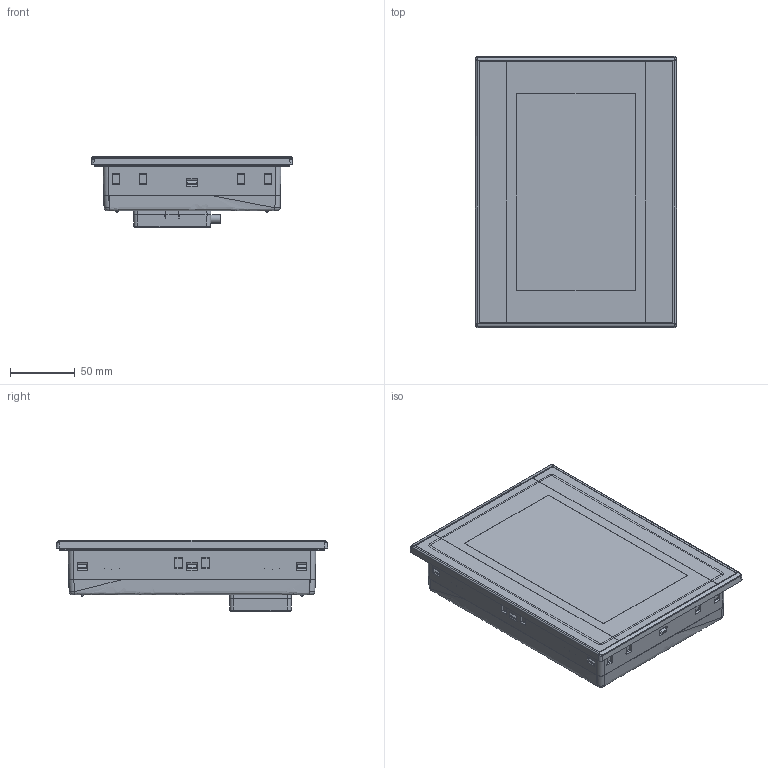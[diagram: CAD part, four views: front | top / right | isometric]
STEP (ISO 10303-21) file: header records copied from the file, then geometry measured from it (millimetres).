
FILE_DESCRIPTION( ('This file contains a STEP AP42 implementation' ,'as created by ZW3D STEP Interface translator.') ,'2;1' );
FILE_NAME( 'HC-7C.stp' ,'24 415.132739', (''), ('ZWCAD Software Co.'), 'Version 1.0', 'ZW3D to STEP translator', '' );
FILE_SCHEMA(('AUTOMOTIVE_DESIGN { 1 0 10303 214 1 1 1 1 }'));
Length unit declared in the file: millimetre
Products named in the file (2): 0; HC-7C
Bounding box: 156 x 210 x 55.2 mm (x, y, z)
Volume: 1004936.4 mm3; surface area: 230290.6 mm2
Topology: 5 solids, 20 shells, 1968 faces, 6116 edges, 4577 vertices
Faces by surface type: plane 1381, cylinder 381, bspline 134, torus 26, cone 25, sphere 21
Full cylindrical faces by diameter (mm): 1 x9, 2.8 x4, 3 x6, 3.2 x2, 3.5 x3, 4.2 x2, 4.4 x3, 5 x3, 6.5 x4
Entity records: 75951 total; most frequent: CARTESIAN_POINT 22159, ORIENTED_EDGE 11348, DIRECTION 9560, EDGE_CURVE 5668, VECTOR 4160, LINE 4160, VERTEX_POINT 3721, AXIS2_PLACEMENT_3D 2700
